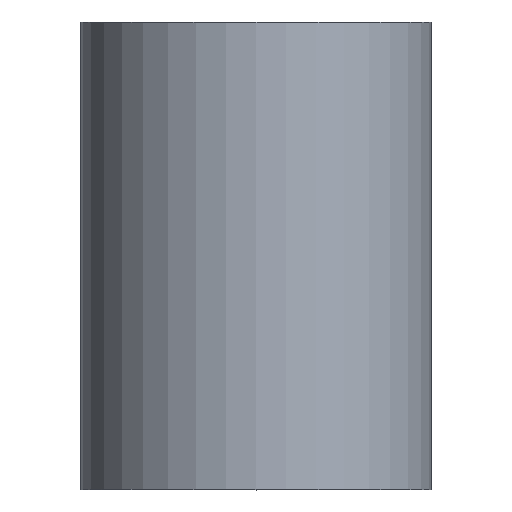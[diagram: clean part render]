
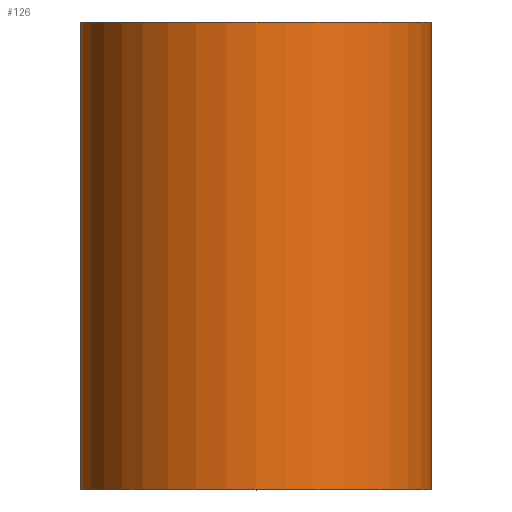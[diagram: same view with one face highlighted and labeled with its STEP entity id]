
A CAD part, top view. The second image highlights one B-rep face of the part: STEP entity #126.
In plain terms, the highlighted cylindrical face has radius 3 mm (diameter 6 mm), a partial arc.
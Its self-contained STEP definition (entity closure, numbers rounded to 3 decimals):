
#4 = CARTESIAN_POINT ( 'NONE',  ( 3., 0., 0. ) ) ;
#5 = LINE ( 'NONE', #246, #185 ) ;
#21 = ORIENTED_EDGE ( 'NONE', *, *, #122, .F. ) ;
#25 = CARTESIAN_POINT ( 'NONE',  ( -3., 0., 0. ) ) ;
#31 = CARTESIAN_POINT ( 'NONE',  ( -3., 8., 0. ) ) ;
#41 = CIRCLE ( 'NONE', #125, 3. ) ;
#49 = DIRECTION ( 'NONE',  ( -1., 0., 0. ) ) ;
#52 = CARTESIAN_POINT ( 'NONE',  ( 0., 0., 0. ) ) ;
#67 = EDGE_LOOP ( 'NONE', ( #150, #268, #106, #21 ) ) ;
#71 = CARTESIAN_POINT ( 'NONE',  ( 0., 0., 0. ) ) ;
#77 = VERTEX_POINT ( 'NONE', #4 ) ;
#78 = DIRECTION ( 'NONE',  ( -1., 0., 0. ) ) ;
#84 = EDGE_CURVE ( 'NONE', #226, #77, #41, .T. ) ;
#94 = CARTESIAN_POINT ( 'NONE',  ( 3., 8., 0. ) ) ;
#106 = ORIENTED_EDGE ( 'NONE', *, *, #112, .F. ) ;
#112 = EDGE_CURVE ( 'NONE', #277, #141, #207, .T. ) ;
#122 = EDGE_CURVE ( 'NONE', #226, #277, #260, .T. ) ;
#125 = AXIS2_PLACEMENT_3D ( 'NONE', #52, #237, #49 ) ;
#126 = ADVANCED_FACE ( 'NONE', ( #198 ), #130, .T. ) ;
#130 = CYLINDRICAL_SURFACE ( 'NONE', #155, 3. ) ;
#141 = VERTEX_POINT ( 'NONE', #94 ) ;
#147 = VECTOR ( 'NONE', #208, 1000. ) ;
#150 = ORIENTED_EDGE ( 'NONE', *, *, #84, .T. ) ;
#155 = AXIS2_PLACEMENT_3D ( 'NONE', #71, #209, #78 ) ;
#185 = VECTOR ( 'NONE', #244, 1000. ) ;
#192 = CARTESIAN_POINT ( 'NONE',  ( 0., 8., 0. ) ) ;
#198 = FACE_OUTER_BOUND ( 'NONE', #67, .T. ) ;
#207 = CIRCLE ( 'NONE', #299, 3. ) ;
#208 = DIRECTION ( 'NONE',  ( 0., 1., 0. ) ) ;
#209 = DIRECTION ( 'NONE',  ( 0., 1., 0. ) ) ;
#226 = VERTEX_POINT ( 'NONE', #235 ) ;
#235 = CARTESIAN_POINT ( 'NONE',  ( -3., 0., 0. ) ) ;
#237 = DIRECTION ( 'NONE',  ( 0., 1., 0. ) ) ;
#244 = DIRECTION ( 'NONE',  ( 0., 1., 0. ) ) ;
#246 = CARTESIAN_POINT ( 'NONE',  ( 3., 0., 0. ) ) ;
#252 = EDGE_CURVE ( 'NONE', #77, #141, #5, .T. ) ;
#260 = LINE ( 'NONE', #25, #147 ) ;
#263 = DIRECTION ( 'NONE',  ( -1., 0., 0. ) ) ;
#268 = ORIENTED_EDGE ( 'NONE', *, *, #252, .T. ) ;
#277 = VERTEX_POINT ( 'NONE', #31 ) ;
#280 = DIRECTION ( 'NONE',  ( 0., 1., 0. ) ) ;
#299 = AXIS2_PLACEMENT_3D ( 'NONE', #192, #280, #263 ) ;
